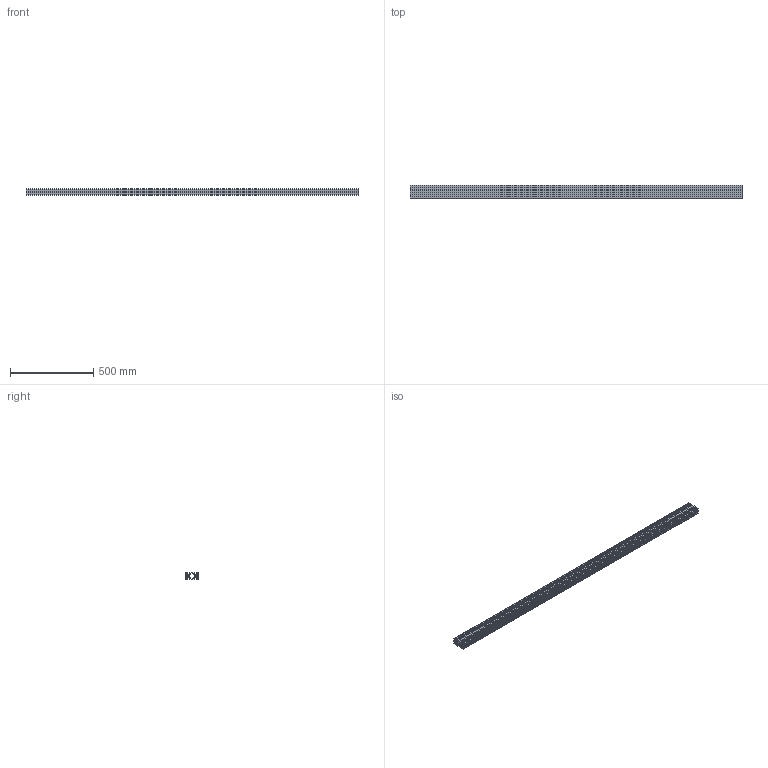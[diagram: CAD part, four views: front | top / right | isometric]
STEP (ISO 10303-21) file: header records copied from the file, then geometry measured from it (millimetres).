
FILE_DESCRIPTION(('STEP AP203'),'1');
FILE_NAME('D:/RobotParts/CACHE_CAO/RS_COMPONENTS/Batch_42/CAD/Temp/56540.stp','2015-09-29T08:58:39',('TraceParts'),('TraceParts S.A.'),'Spatial InterOp 3D',' ',' ');
FILE_SCHEMA(('CONFIG_CONTROL_DESIGN'));
Length unit declared in the file: millimetre
Products named in the file (1): 1
Bounding box: 2000 x 80 x 40 mm (x, y, z)
Volume: 1949975.5 mm3; surface area: 1674556.1 mm2
Topology: 1 solids, 1 shells, 202 faces, 600 edges, 400 vertices
Faces by surface type: plane 174, cylinder 28
Entity records: 6752 total; most frequent: CARTESIAN_POINT 1203, ORIENTED_EDGE 1200, DIRECTION 1062, EDGE_CURVE 600, LINE 544, VECTOR 544, VERTEX_POINT 400, AXIS2_PLACEMENT_3D 259
